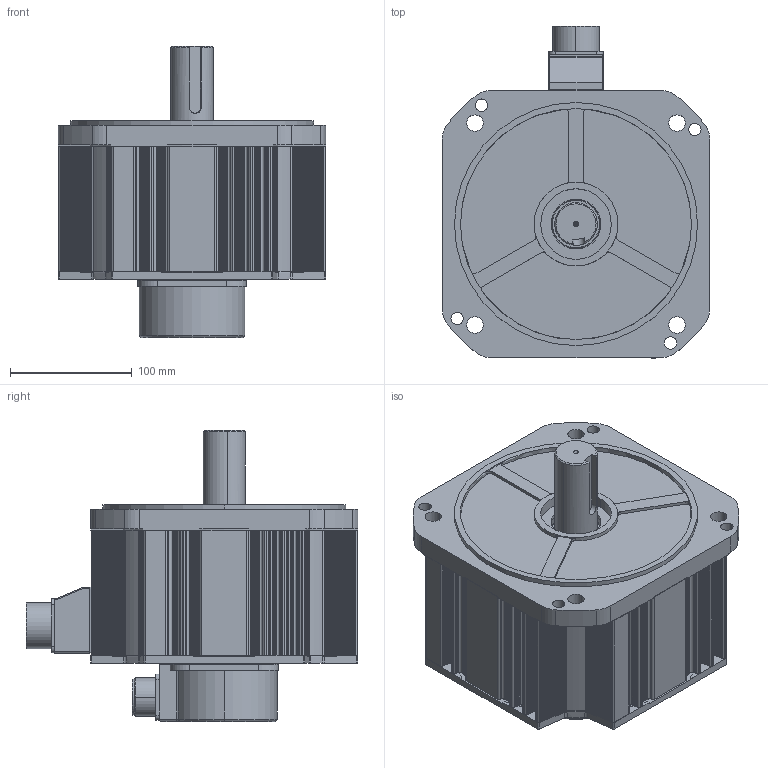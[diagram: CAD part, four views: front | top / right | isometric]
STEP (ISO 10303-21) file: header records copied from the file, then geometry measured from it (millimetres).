
FILE_DESCRIPTION (( 'STEP AP203' ), '1' );
FILE_NAME ('KANF-25G¡à9B2.STEP', '2026-09-12T00:51:34', ( '' ), ( '' ), 'SwSTEP 2.0', 'SolidWorks 2023', '' );
FILE_SCHEMA (( 'CONFIG_CONTROL_DESIGN' ));
Length unit declared in the file: millimetre
Products named in the file (11): 10050908 CONNECTOR BOX_MS22 or MS24; □220 BRACKET_BR; 10050532 GASKET_미돌출형; MS3102A 20-29P; □220 FLANGE; □220-106.0mm(2.5kW,BR); KANF-25G□9B2; Ø35-KEY10X50; 1005053102 ENCODER COVER; 10050907 RUBBER SEAL_MS22 or MS24; MS3102A 24-11P_표준
Assembly tree (10 placements, depth 2):
  KANF-25G□9B2
    □220 FLANGE
    □220 BRACKET_BR
    10050532 GASKET_미돌출형
    1005053102 ENCODER COVER
    MS3102A 20-29P
    10050907 RUBBER SEAL_MS22 or MS24
    10050908 CONNECTOR BOX_MS22 or MS24
    MS3102A 24-11P_표준
    Ø35-KEY10X50
    □220-106.0mm(2.5kW,BR)
Bounding box: 220 x 273.12 x 239.5 mm (x, y, z)
Volume: 1654765.3 mm3; surface area: 560555.3 mm2
Topology: 10 solids, 10 shells, 2020 faces, 5772 edges, 3812 vertices
Faces by surface type: plane 1184, cylinder 732, cone 54, bspline 35, torus 13, sphere 2
Entity records: 68895 total; most frequent: CARTESIAN_POINT 13760, ORIENTED_EDGE 11492, DIRECTION 11204, EDGE_CURVE 5746, LINE 3982, VECTOR 3982, VERTEX_POINT 3812, AXIS2_PLACEMENT_3D 3611
